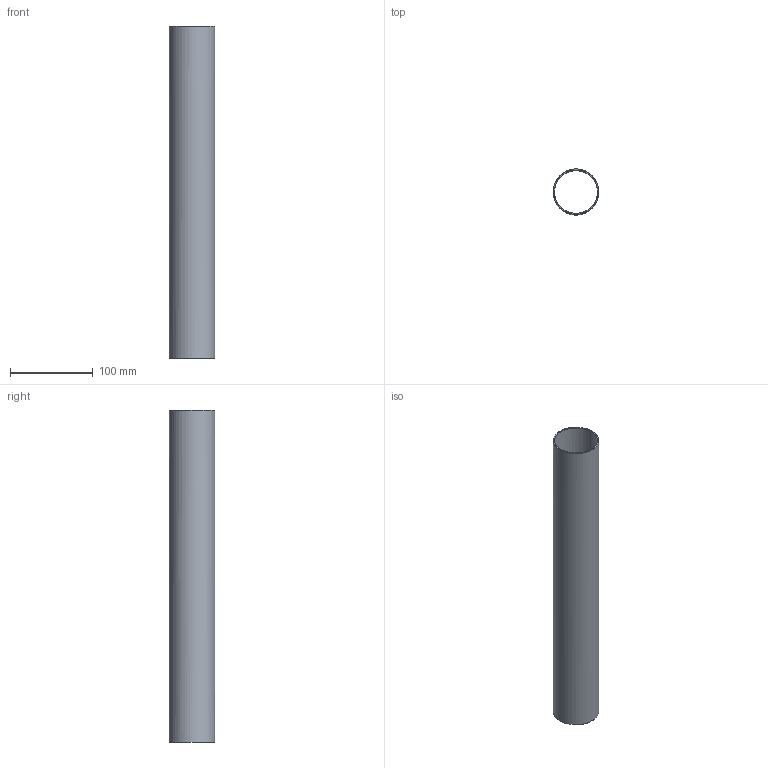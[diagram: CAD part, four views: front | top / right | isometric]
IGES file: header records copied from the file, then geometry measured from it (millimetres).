
Start section: SolidWorks IGES file using NURBS representation for surfaces
Global section: file name: Z:\Modele 3D_WWW\_CAMELEON\KLOSZE I OPRAWY WWW\Cameleon-Eye\Cameleon-EYE_L\EYE_L_8484_8482_8477_8475_8480\EYE_L_8484_8482_8477_8475_8480.IGS; native system: SolidWorks 2021; preprocessor: SolidWorks 2021; author: gabriela.tworek; date: 220311.085036; units: millimetre
Bounding box: 55 x 55 x 400 mm (x, y, z)
Surface area: 135223.7 mm2 (no closed solid volume)
Topology: 0 solids, 0 shells, 4 faces, 18 edges, 16 vertices
Faces by surface type: bspline 4
